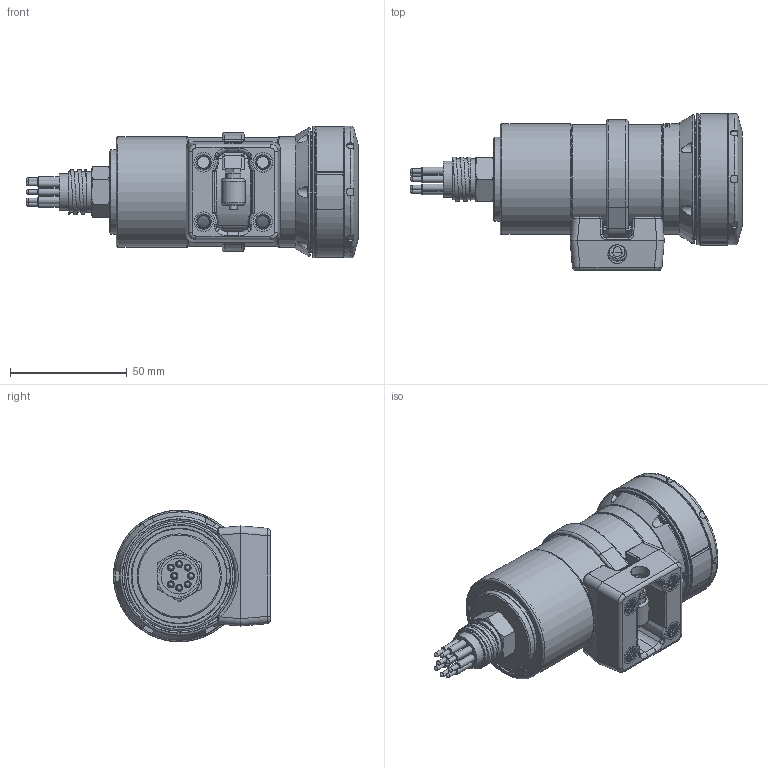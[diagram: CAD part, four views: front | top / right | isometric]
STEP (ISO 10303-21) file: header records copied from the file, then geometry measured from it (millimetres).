
FILE_DESCRIPTION (( 'STEP AP214' ), '1' );
FILE_NAME ('IPMSC-F-SUBMC8E-741-008_20220317a.STEP', '2022-03-17T17:41:09', ( '' ), ( '' ), 'SwSTEP 2.0', 'SolidWorks 2021', '' );
FILE_SCHEMA (( 'AUTOMOTIVE_DESIGN' ));
Length unit declared in the file: millimetre
Products named in the file (1): IPMSC-F-SUBMC8E-741-008_20220317a
Bounding box: 142.28 x 67.32 x 56.39 mm (x, y, z)
Surface area: 43730.8 mm2 (no closed solid volume)
Topology: 0 solids, 28 shells, 501 faces, 1921 edges, 1417 vertices
Faces by surface type: cylinder 189, plane 114, bspline 100, torus 49, cone 37, sphere 12
Full cylindrical faces by diameter (mm): 1.943 x8, 3.048 x8, 3.454 x1, 5.105 x52, 6.35 x1, 7.938 x1, 15.494 x1, 17.526 x1, 34.595 x1, 36.119 x1, 38.5 x1, 40.589 x1, 43.688 x1, 45.212 x1, 46.736 x1, 47.371 x2, 47.498 x1, 51.435 x1, 55.626 x1, 56.388 x2
Entity records: 45372 total; most frequent: CARTESIAN_POINT 28629, ORIENTED_EDGE 2354, DIRECTION 1892, EDGE_CURVE 1609, VERTEX_POINT 1268, AXIS2_PLACEMENT_3D 790, B_SPLINE_CURVE_WITH_KNOTS 763, EDGE_LOOP 605
